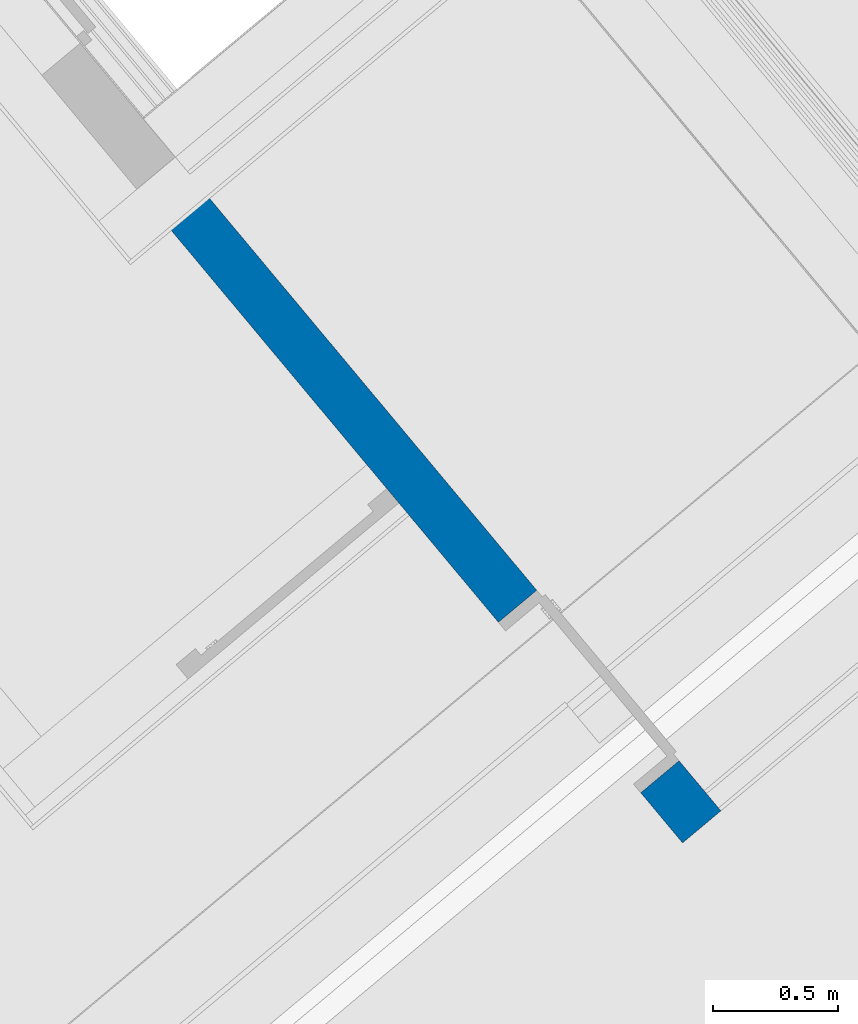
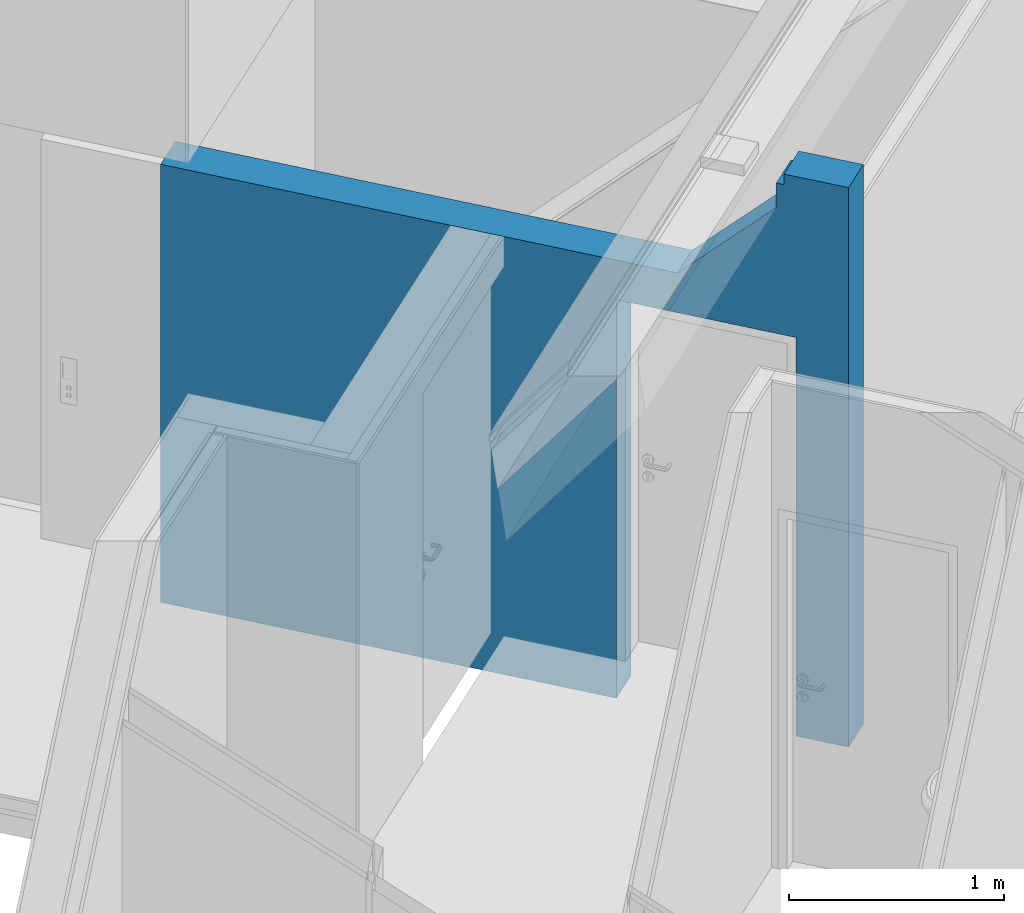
# One storey, part 5 of 47: 1 wall, 1 opening.
"""IFC4 building model written with IfcOpenShell, lengths in metres."""

from ifc_helpers import new_model, entity, si_unit, converted_unit, derived_unit, direction, frame, origin_with_axes, place, context, subcontext, project, spatial, polygons, material, type_object, element, save


model = new_model("IFC4")

# Units and contexts
model_context = context("Model", 3, precision=1e-05, world=origin_with_axes(), true_north=direction((0.0, 1.0)))
body_context = subcontext(model_context, "Body", "Model", "MODEL_VIEW")
ifc_project = project(units=[si_unit("LENGTHUNIT", "METRE"), si_unit("AREAUNIT", "SQUARE_METRE"), si_unit("VOLUMEUNIT", "CUBIC_METRE"), converted_unit("PLANEANGLEUNIT", "DEGREE", entity("IfcPlaneAngleMeasure", 0.0174532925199), si_unit("PLANEANGLEUNIT", "RADIAN"), dimensions=[0, 0, 0, 0, 0, 0, 0]), converted_unit("TIMEUNIT", "Year", entity("IfcTimeMeasure", 31556926.0), si_unit("TIMEUNIT", "SECOND"), dimensions=[0, 0, 1, 0, 0, 0, 0]), si_unit("MASSUNIT", "GRAM", prefix="KILO"), si_unit("THERMODYNAMICTEMPERATUREUNIT", "DEGREE_CELSIUS"), si_unit("LUMINOUSINTENSITYUNIT", "LUMEN"), si_unit("ENERGYUNIT", "JOULE", prefix="MEGA"), derived_unit("THERMALCONDUCTANCEUNIT", [(si_unit("POWERUNIT", "WATT"), 1), (si_unit("LENGTHUNIT", "METRE"), -1), (si_unit("THERMODYNAMICTEMPERATUREUNIT", "KELVIN"), -1)]), derived_unit("SPECIFICHEATCAPACITYUNIT", [(si_unit("ENERGYUNIT", "JOULE"), 1), (si_unit("MASSUNIT", "GRAM", prefix="KILO"), -1), (si_unit("THERMODYNAMICTEMPERATUREUNIT", "KELVIN"), -1)]), derived_unit("MASSDENSITYUNIT", [(si_unit("MASSUNIT", "GRAM", prefix="KILO"), 1), (si_unit("VOLUMEUNIT", "CUBIC_METRE"), -1)])], contexts=[model_context])

# Site, building, storey
site_placement = place(None, frame((-0.00153261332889, -0.00661245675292, 0.0), z_axis=(0.0, 0.0, 1.0), x_axis=(1.0, 0.0, 0.0)))
site = spatial("IfcSite", under=ifc_project, at=site_placement, Name="Site", CompositionType="ELEMENT")
building_placement = place(site_placement, origin_with_axes())
building = spatial("IfcBuilding", under=site, at=building_placement, Name="Building", CompositionType="ELEMENT")
storey_placement = place(building_placement, frame((0.0, 0.0, 8.66), z_axis=(0.0, 0.0, 1.0), x_axis=(1.0, 0.0, 0.0)))
storey = spatial("IfcBuildingStorey", under=building, at=storey_placement, Name="DG2", CompositionType="ELEMENT", Elevation=8.66)

# Wall, opening
ifc_material = material(Name="Stahlbeton Wand")
wall_type = type_object("IfcWallType", Name="Stahlbeton Wand 200", PredefinedType="NOTDEFINED")
wall_placement = place(storey_placement, frame((3.67720050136, 22.0128370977, 0.0), z_axis=(0.0, 0.0, 1.0), x_axis=(-0.640868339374, 0.767650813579, 0.0)))
wall = element("IfcWall", 1, at=wall_placement, inside=storey, type_object=wall_type, material=ifc_material, Name="Wand-003", PredefinedType="NOTDEFINED", context=body_context, shape_type="Tessellation", body=[
    polygons([(1.15149667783, 0.0, 2.265), (1.15149667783, 0.0, 0.22), (1.15149663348, 0.0, 0.0), (3.41230812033, 0.0, 0.0), (3.41230812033, 0.0, 2.49), (0.849434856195, 0.0, 2.49), (0.849434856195, 0.0, 2.48997370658), (0.359408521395, 0.0, 2.98), (0.359408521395, 0.0, 3.12), (0.320185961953, 0.0, 3.12), (0.320185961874, 0.0, 3.18), (0.0, 0.0, 3.18), (0.0, 0.0, 0.0), (0.261496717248, -7.8576302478e-06, 0.0), (0.261496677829, -7.8576302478e-06, 0.22), (0.261496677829, 0.0, 2.265), (1.15149667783, 0.2, 2.265), (1.15149667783, 0.2, 0.22), (1.15149663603, 0.2, 0.0), (3.41230812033, 0.2, 0.0), (3.41230816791, 0.20000000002, 2.49), (0.849352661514, 0.2, 2.49), (0.849352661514, 0.2, 2.48997370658), (0.359326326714, 0.2, 2.98), (0.359326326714, 0.2, 3.12), (0.32009705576, 0.2, 3.12), (0.320097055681, 0.2, 3.18), (0.0, 0.2, 3.18), (0.0, 0.2, 0.0), (0.26149671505, 0.2, 0.0), (0.261496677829, 0.2, 0.22), (0.261496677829, 0.2, 2.265)], [[[1, 2, 3, 4, 5, 6, 7, 8, 9, 10, 11, 12, 13, 14, 15, 16]], [[2, 1, 17, 18]], [[2, 18, 19, 3]], [[20, 4, 3, 19]], [[5, 4, 20, 21]], [[6, 5, 21, 22]], [[22, 23, 7, 6]], [[23, 24, 8, 7]], [[8, 24, 25, 9]], [[26, 10, 9, 25]], [[11, 10, 26, 27]], [[27, 28, 12, 11]], [[29, 13, 12, 28]], [[13, 29, 30, 14]], [[31, 15, 14, 30]], [[16, 15, 31, 32]], [[1, 16, 32, 17]], [[32, 31, 30, 29, 28, 27, 26, 25, 24, 23, 22, 21, 20, 19, 18, 17]]], closed=True),
])
opening_placement = place(wall_placement, frame((0.706496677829, 0.0, 0.22), z_axis=(0.0, 0.0, 1.0), x_axis=(1.0, 0.0, 0.0)))
element("IfcOpeningElement", 2, at=opening_placement, cuts=wall, Name="Tür-018", context=body_context, identifier="Reference", shape_type="Tessellation", body=[
    polygons([(0.445, 1.87972968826, 2.045), (0.445, 1.87972968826, -0.22), (-0.445, 1.87972968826, -0.22), (-0.445, 1.87972968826, 2.045), (0.445, -1.67972968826, 2.045), (0.445, -1.67972968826, -0.22), (-0.445, -1.67972968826, -0.22), (-0.445, -1.67972968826, 2.045)], [[[1, 2, 3, 4]], [[5, 6, 2, 1]], [[6, 7, 3, 2]], [[7, 8, 4, 3]], [[8, 5, 1, 4]], [[7, 6, 5, 8]]], closed=True),
])

save(model, "model.ifc")
